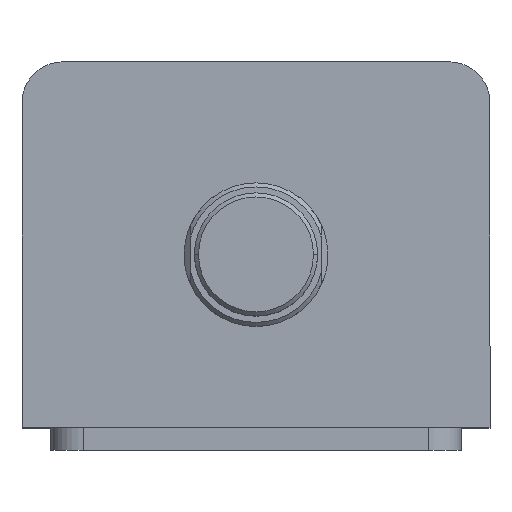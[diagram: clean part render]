
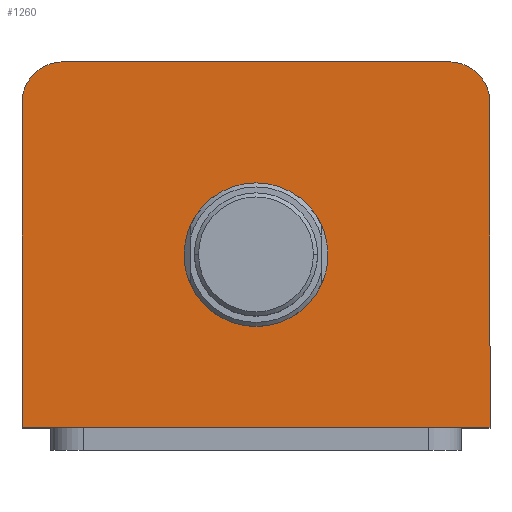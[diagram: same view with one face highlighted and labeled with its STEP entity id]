
A CAD part, top view. The second image highlights one B-rep face of the part: STEP entity #1260.
In plain terms, the highlighted planar face has unit normal (0, 0, 1).
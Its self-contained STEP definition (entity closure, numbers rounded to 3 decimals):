
#181 = CIRCLE ( 'NONE', #3539, 17.5 ) ;
#184 = CIRCLE ( 'NONE', #3510, 17.5 ) ;
#190 = LINE ( 'NONE', #2637, #197 ) ;
#197 = VECTOR ( 'NONE', #2647, 1000. ) ;
#232 = LINE ( 'NONE', #2682, #235 ) ;
#235 = VECTOR ( 'NONE', #2683, 1000. ) ;
#307 = CIRCLE ( 'NONE', #3757, 10. ) ;
#326 = LINE ( 'NONE', #2592, #328 ) ;
#328 = VECTOR ( 'NONE', #2593, 1000. ) ;
#340 = CIRCLE ( 'NONE', #3636, 10. ) ;
#371 = LINE ( 'NONE', #709, #373 ) ;
#373 = VECTOR ( 'NONE', #710, 1000. ) ;
#422 = CARTESIAN_POINT ( 'NONE',  ( 57., -44.5, 172. ) ) ;
#434 = CARTESIAN_POINT ( 'NONE',  ( -47., 44.5, 172. ) ) ;
#452 = CARTESIAN_POINT ( 'NONE',  ( -17.5, -2.5, 172. ) ) ;
#475 = CARTESIAN_POINT ( 'NONE',  ( 17.5, -2.5, 172. ) ) ;
#478 = CARTESIAN_POINT ( 'NONE',  ( -57., -44.5, 172. ) ) ;
#500 = CARTESIAN_POINT ( 'NONE',  ( 47., 44.5, 172. ) ) ;
#508 = CARTESIAN_POINT ( 'NONE',  ( -57., 34.5, 172. ) ) ;
#665 = CARTESIAN_POINT ( 'NONE',  ( -47., 34.5, 172. ) ) ;
#666 = DIRECTION ( 'NONE',  ( 0., 0., 1. ) ) ;
#667 = DIRECTION ( 'NONE',  ( 1., 0., 0. ) ) ;
#709 = CARTESIAN_POINT ( 'NONE',  ( -57., 44.5, 172. ) ) ;
#710 = DIRECTION ( 'NONE',  ( -1., 0., 0. ) ) ;
#759 = CARTESIAN_POINT ( 'NONE',  ( 57., 34.5, 172. ) ) ;
#1260 = ADVANCED_FACE ( 'NONE', ( #1840, #1849 ), #3136, .T. ) ;
#1268 = EDGE_LOOP ( 'NONE', ( #2270, #2271 ) ) ;
#1416 = EDGE_CURVE ( 'NONE', #1640, #1663, #181, .T. ) ;
#1418 = EDGE_CURVE ( 'NONE', #1663, #1640, #184, .T. ) ;
#1425 = EDGE_CURVE ( 'NONE', #1666, #1610, #190, .T. ) ;
#1444 = EDGE_CURVE ( 'NONE', #1610, #1602, #232, .T. ) ;
#1490 = EDGE_CURVE ( 'NONE', #1602, #1688, #307, .T. ) ;
#1502 = EDGE_CURVE ( 'NONE', #2054, #1666, #326, .T. ) ;
#1513 = EDGE_CURVE ( 'NONE', #1622, #2054, #340, .T. ) ;
#1534 = EDGE_CURVE ( 'NONE', #1688, #1622, #371, .T. ) ;
#1602 = VERTEX_POINT ( 'NONE', #759 ) ;
#1610 = VERTEX_POINT ( 'NONE', #422 ) ;
#1622 = VERTEX_POINT ( 'NONE', #434 ) ;
#1640 = VERTEX_POINT ( 'NONE', #452 ) ;
#1663 = VERTEX_POINT ( 'NONE', #475 ) ;
#1666 = VERTEX_POINT ( 'NONE', #478 ) ;
#1688 = VERTEX_POINT ( 'NONE', #500 ) ;
#1840 = FACE_BOUND ( 'NONE', #1268, .T. ) ;
#1849 = FACE_OUTER_BOUND ( 'NONE', #2352, .T. ) ;
#2054 = VERTEX_POINT ( 'NONE', #508 ) ;
#2270 = ORIENTED_EDGE ( 'NONE', *, *, #1418, .F. ) ;
#2271 = ORIENTED_EDGE ( 'NONE', *, *, #1416, .F. ) ;
#2272 = ORIENTED_EDGE ( 'NONE', *, *, #1534, .T. ) ;
#2273 = ORIENTED_EDGE ( 'NONE', *, *, #1513, .T. ) ;
#2274 = ORIENTED_EDGE ( 'NONE', *, *, #1502, .T. ) ;
#2275 = ORIENTED_EDGE ( 'NONE', *, *, #1425, .T. ) ;
#2276 = ORIENTED_EDGE ( 'NONE', *, *, #1444, .T. ) ;
#2277 = ORIENTED_EDGE ( 'NONE', *, *, #1490, .T. ) ;
#2352 = EDGE_LOOP ( 'NONE', ( #2272, #2273, #2274, #2275, #2276, #2277 ) ) ;
#2570 = CARTESIAN_POINT ( 'NONE',  ( 47., 34.5, 172. ) ) ;
#2571 = DIRECTION ( 'NONE',  ( 0., 0., 1. ) ) ;
#2572 = DIRECTION ( 'NONE',  ( 1., 0., 0. ) ) ;
#2592 = CARTESIAN_POINT ( 'NONE',  ( -57., 44.5, 172. ) ) ;
#2593 = DIRECTION ( 'NONE',  ( 0., -1., 0. ) ) ;
#2623 = CARTESIAN_POINT ( 'NONE',  ( 0., -2.5, 172. ) ) ;
#2624 = DIRECTION ( 'NONE',  ( 0., 0., 1. ) ) ;
#2625 = DIRECTION ( 'NONE',  ( 1., 0., 0. ) ) ;
#2626 = CARTESIAN_POINT ( 'NONE',  ( 0., -2.5, 172. ) ) ;
#2627 = DIRECTION ( 'NONE',  ( 0., 0., 1. ) ) ;
#2628 = DIRECTION ( 'NONE',  ( 1., 0., 0. ) ) ;
#2637 = CARTESIAN_POINT ( 'NONE',  ( -57., -44.5, 172. ) ) ;
#2647 = DIRECTION ( 'NONE',  ( 1., 0., 0. ) ) ;
#2682 = CARTESIAN_POINT ( 'NONE',  ( 57., 44.5, 172. ) ) ;
#2683 = DIRECTION ( 'NONE',  ( 0., 1., 0. ) ) ;
#3132 = CARTESIAN_POINT ( 'NONE',  ( 0., 0., 172. ) ) ;
#3136 = PLANE ( 'NONE',  #3736 ) ;
#3141 = DIRECTION ( 'NONE',  ( 0., 0., 1. ) ) ;
#3142 = DIRECTION ( 'NONE',  ( 1., 0., 0. ) ) ;
#3510 = AXIS2_PLACEMENT_3D ( 'NONE', #2626, #2627, #2628 ) ;
#3539 = AXIS2_PLACEMENT_3D ( 'NONE', #2623, #2624, #2625 ) ;
#3636 = AXIS2_PLACEMENT_3D ( 'NONE', #665, #666, #667 ) ;
#3736 = AXIS2_PLACEMENT_3D ( 'NONE', #3132, #3141, #3142 ) ;
#3757 = AXIS2_PLACEMENT_3D ( 'NONE', #2570, #2571, #2572 ) ;
